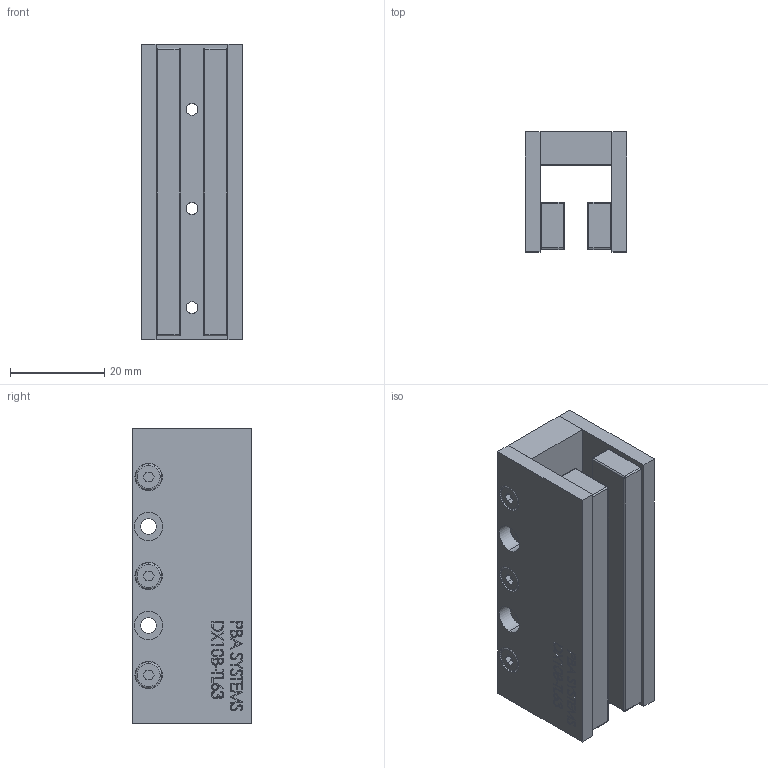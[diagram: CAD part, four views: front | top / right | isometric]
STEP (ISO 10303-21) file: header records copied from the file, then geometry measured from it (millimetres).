
FILE_DESCRIPTION (( 'STEP AP214' ), '1' );
FILE_NAME ('DX10B-TL63.STEP', '2016-07-14T07:37:24', ( '' ), ( '' ), 'SwSTEP 2.0', 'SolidWorks 2015', '' );
FILE_SCHEMA (( 'AUTOMOTIVE_DESIGN' ));
Length unit declared in the file: millimetre
Products named in the file (5): DX10B-0000-001_CUSTOMER_TL63; M3X8 DIN7984; DX10B-TL63-002; DX10B-TL63-001; DX10B-TL63
Assembly tree (11 placements, depth 2):
  DX10B-TL63
    DX10B-TL63-001
    DX10B-TL63-002  x2
    M3X8 DIN7984  x6
    DX10B-0000-001_CUSTOMER_TL63  x2
Bounding box: 21.6 x 25.4 x 62.7 mm (x, y, z)
Volume: 22375.1 mm3; surface area: 16323.7 mm2
Topology: 11 solids, 11 shells, 772 faces, 1966 edges, 1276 vertices
Faces by surface type: plane 420, bspline 216, cylinder 96, sphere 16, cone 12, torus 12
Entity records: 16841 total; most frequent: CARTESIAN_POINT 8206, ORIENTED_EDGE 1858, DIRECTION 1349, EDGE_CURVE 929, LINE 611, VECTOR 611, VERTEX_POINT 610, EDGE_LOOP 421
